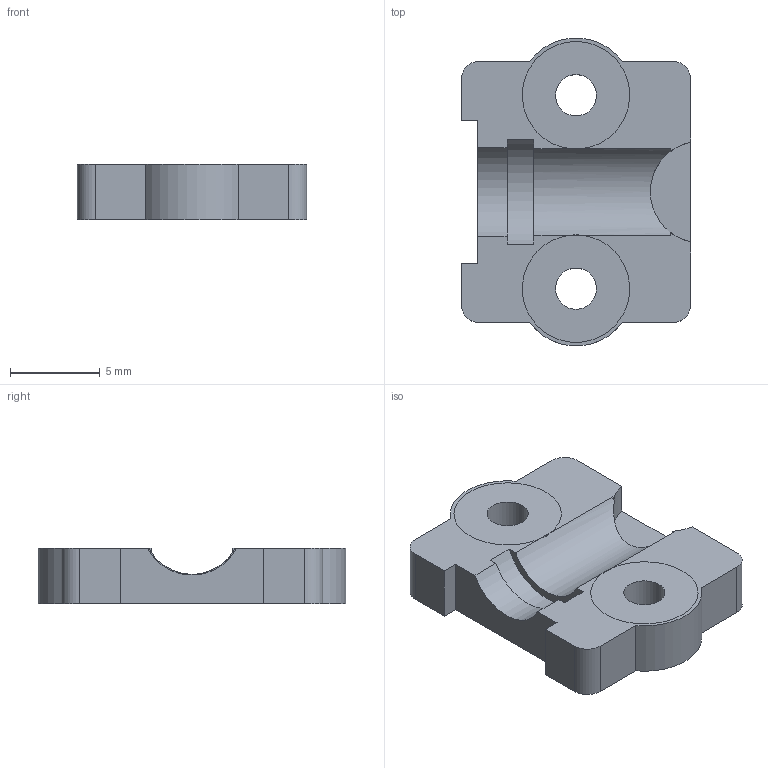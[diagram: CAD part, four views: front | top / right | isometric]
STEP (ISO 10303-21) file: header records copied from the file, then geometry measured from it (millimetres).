
FILE_DESCRIPTION(/* description */ (''),/* implementation_level */ '2;1');
FILE_NAME(/* name */ 'P14.step',/* time_stamp */ '2026-09-15T15:14:51-07:00',/* author */ (''),/* organization */ (''),/* preprocessor_version */ 'ST-DEVELOPER v20.1',/* originating_system */ 'Autodesk Translation Framework v15.8.0.0',/* authorisation */ '');
FILE_SCHEMA (('AUTOMOTIVE_DESIGN { 1 0 10303 214 3 1 1 }'));
Length unit declared in the file: millimetre
Products named in the file (1): 2026-09-15-15-14-51-466
Bounding box: 12.8 x 17.18 x 3.1 mm (x, y, z)
Volume: 476.1 mm3; surface area: 597.2 mm2
Topology: 1 solids, 1 shells, 42 faces, 102 edges, 66 vertices
Faces by surface type: plane 26, cylinder 16
Full cylindrical faces by diameter (mm): 2.3 x2, 4.4 x2
Entity records: 1322 total; most frequent: CARTESIAN_POINT 264, DIRECTION 221, ORIENTED_EDGE 204, EDGE_CURVE 102, AXIS2_PLACEMENT_3D 79, VERTEX_POINT 66, LINE 63, VECTOR 63
